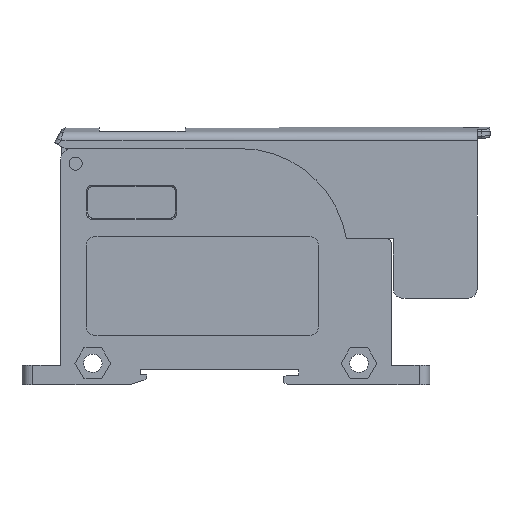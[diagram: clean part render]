
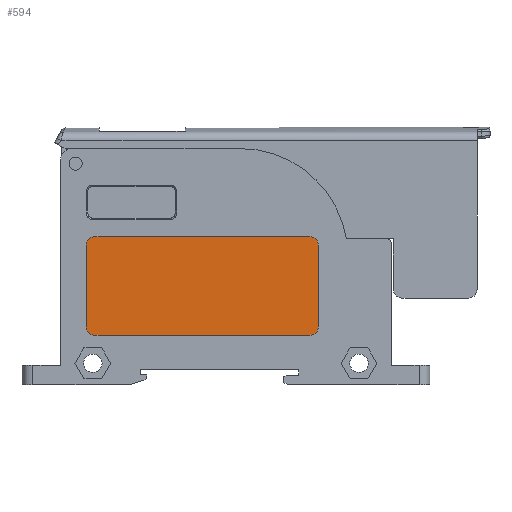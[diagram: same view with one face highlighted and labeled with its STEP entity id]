
A CAD part, left-side view. The second image highlights one B-rep face of the part: STEP entity #594.
In plain terms, the highlighted planar face has unit normal (-1, 0, 0).
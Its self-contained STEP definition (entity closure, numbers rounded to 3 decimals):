
#335=CIRCLE('',#6279,2.);
#336=CIRCLE('',#6280,2.);
#337=CIRCLE('',#6281,2.);
#338=CIRCLE('',#6282,2.);
#594=ADVANCED_FACE('',(#1101),#881,.T.);
#881=PLANE('',#6283);
#1101=FACE_OUTER_BOUND('',#1418,.T.);
#1418=EDGE_LOOP('',(#2195,#2196,#2197,#2198,#2199,#2200,#2201,#2202));
#2195=ORIENTED_EDGE('',*,*,#4288,.T.);
#2196=ORIENTED_EDGE('',*,*,#4289,.T.);
#2197=ORIENTED_EDGE('',*,*,#4290,.T.);
#2198=ORIENTED_EDGE('',*,*,#4291,.T.);
#2199=ORIENTED_EDGE('',*,*,#4292,.F.);
#2200=ORIENTED_EDGE('',*,*,#4293,.T.);
#2201=ORIENTED_EDGE('',*,*,#4294,.F.);
#2202=ORIENTED_EDGE('',*,*,#4295,.T.);
#3628=VERTEX_POINT('',#8856);
#3629=VERTEX_POINT('',#8857);
#3630=VERTEX_POINT('',#8859);
#3631=VERTEX_POINT('',#8861);
#3632=VERTEX_POINT('',#8863);
#3633=VERTEX_POINT('',#8865);
#3634=VERTEX_POINT('',#8867);
#3635=VERTEX_POINT('',#8869);
#4288=EDGE_CURVE('',#3628,#3629,#5085,.T.);
#4289=EDGE_CURVE('',#3629,#3630,#335,.T.);
#4290=EDGE_CURVE('',#3630,#3631,#5086,.T.);
#4291=EDGE_CURVE('',#3631,#3632,#336,.T.);
#4292=EDGE_CURVE('',#3633,#3632,#5087,.T.);
#4293=EDGE_CURVE('',#3633,#3634,#337,.T.);
#4294=EDGE_CURVE('',#3635,#3634,#5088,.T.);
#4295=EDGE_CURVE('',#3635,#3628,#338,.T.);
#5085=LINE('',#8855,#5723);
#5086=LINE('',#8860,#5724);
#5087=LINE('',#8864,#5725);
#5088=LINE('',#8868,#5726);
#5723=VECTOR('',#7168,1.);
#5724=VECTOR('',#7171,1.);
#5725=VECTOR('',#7174,1.);
#5726=VECTOR('',#7177,1.);
#6279=AXIS2_PLACEMENT_3D('',#8858,#7169,#7170);
#6280=AXIS2_PLACEMENT_3D('',#8862,#7172,#7173);
#6281=AXIS2_PLACEMENT_3D('',#8866,#7175,#7176);
#6282=AXIS2_PLACEMENT_3D('',#8870,#7178,#7179);
#6283=AXIS2_PLACEMENT_3D('',#8871,#7180,#7181);
#7168=DIRECTION('',(0.,1.,0.));
#7169=DIRECTION('',(-1.,0.,0.));
#7170=DIRECTION('',(0.,0.,1.));
#7171=DIRECTION('',(0.,0.,-1.));
#7172=DIRECTION('',(-1.,0.,0.));
#7173=DIRECTION('',(0.,0.,1.));
#7174=DIRECTION('',(0.,1.,0.));
#7175=DIRECTION('',(-1.,0.,0.));
#7176=DIRECTION('',(0.,0.,1.));
#7177=DIRECTION('',(0.,0.,-1.));
#7178=DIRECTION('',(-1.,0.,0.));
#7179=DIRECTION('',(0.,0.,1.));
#7180=DIRECTION('',(-1.,0.,0.));
#7181=DIRECTION('',(0.,0.,-1.));
#8855=CARTESIAN_POINT('',(-127.05,38.,20.05));
#8856=CARTESIAN_POINT('',(-127.05,12.5,20.05));
#8857=CARTESIAN_POINT('',(-127.05,62.5,20.05));
#8858=CARTESIAN_POINT('',(-127.05,62.5,18.05));
#8859=CARTESIAN_POINT('',(-127.05,64.5,18.05));
#8860=CARTESIAN_POINT('',(-127.05,64.5,0.));
#8861=CARTESIAN_POINT('',(-127.05,64.5,-0.95));
#8862=CARTESIAN_POINT('',(-127.05,62.5,-0.95));
#8863=CARTESIAN_POINT('',(-127.05,62.5,-2.95));
#8864=CARTESIAN_POINT('',(-127.05,38.,-2.95));
#8865=CARTESIAN_POINT('',(-127.05,12.5,-2.95));
#8866=CARTESIAN_POINT('',(-127.05,12.5,-0.95));
#8867=CARTESIAN_POINT('',(-127.05,10.5,-0.95));
#8868=CARTESIAN_POINT('',(-127.05,10.5,0.));
#8869=CARTESIAN_POINT('',(-127.05,10.5,18.05));
#8870=CARTESIAN_POINT('',(-127.05,12.5,18.05));
#8871=CARTESIAN_POINT('',(-127.05,38.,0.));
